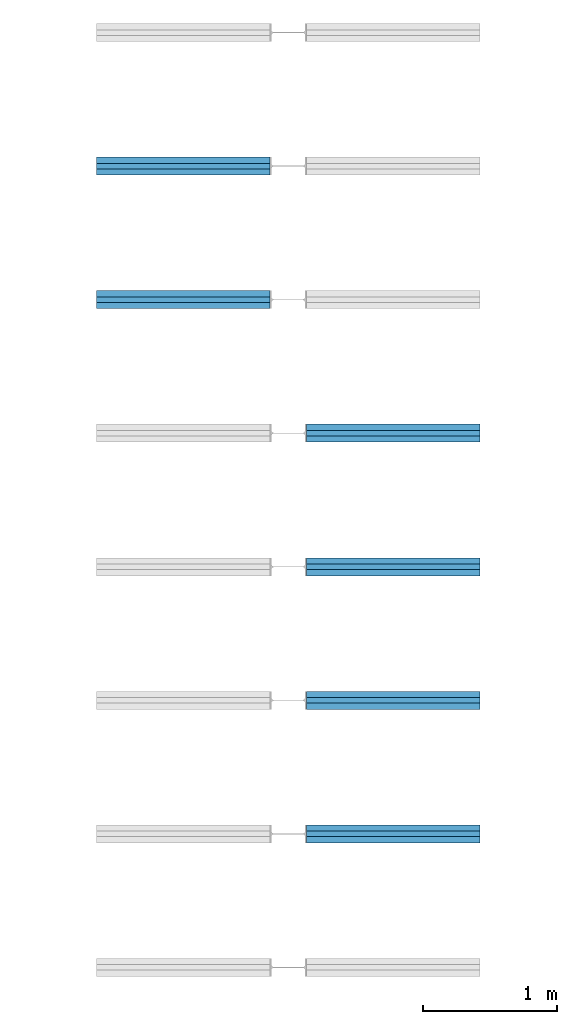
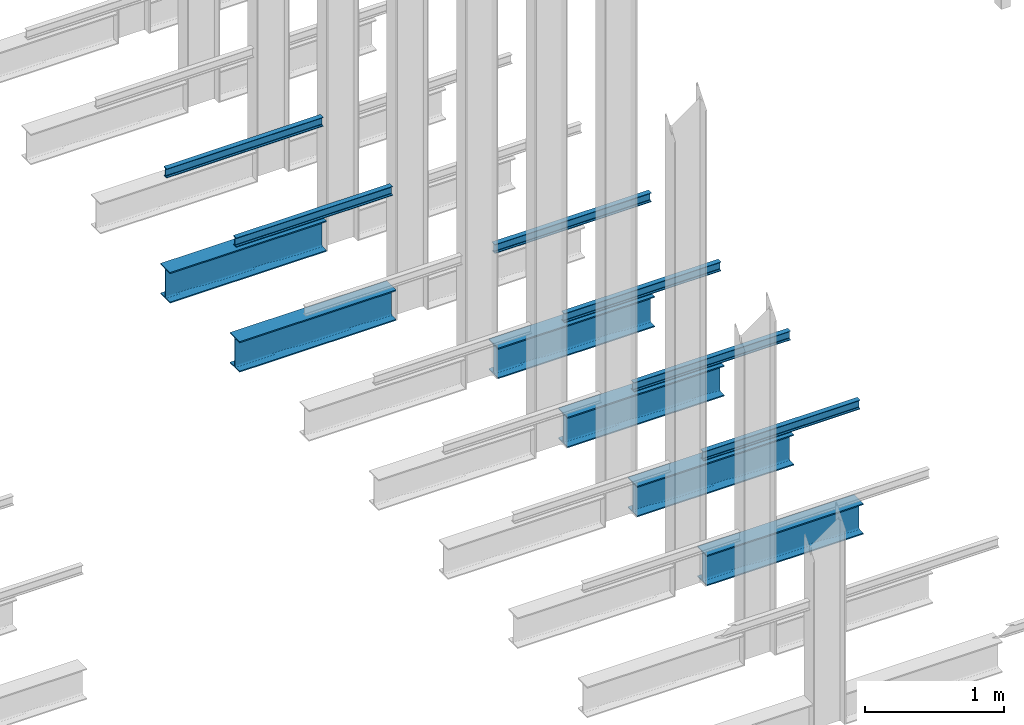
# One storey, part 175 of 302: 12 beams.
"""IFC2X3 building model written with IfcOpenShell, lengths in metres."""

from ifc_helpers import new_model, entity, si_unit, converted_unit, derived_unit, direction, frame, frame_2d, origin, place, context, subcontext, project, spatial, polyline, circle_curve, parameter, trimmed, segment, composite_curve, i_section, outline, extrude, material, type_object, element, save


model = new_model("IFC2X3")

# Units and contexts
model_context = context("Model", 3, precision=1e-05, world=origin(), true_north=direction((6.12303176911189e-17, 1.0)))
body_context = subcontext(model_context, "Body", "Model", "MODEL_VIEW")
ifc_project = project(units=[si_unit("LENGTHUNIT", "METRE"), si_unit("AREAUNIT", "SQUARE_METRE"), si_unit("VOLUMEUNIT", "CUBIC_METRE"), converted_unit("PLANEANGLEUNIT", "DEGREE", entity("IfcRatioMeasure", 0.0174532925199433), si_unit("PLANEANGLEUNIT", "RADIAN"), dimensions=[0, 0, 0, 0, 0, 0, 0]), si_unit("MASSUNIT", "GRAM", prefix="KILO"), derived_unit("MASSDENSITYUNIT", [(si_unit("MASSUNIT", "GRAM", prefix="KILO"), 1), (si_unit("LENGTHUNIT", "METRE"), -3)]), derived_unit("MOMENTOFINERTIAUNIT", [(si_unit("LENGTHUNIT", "METRE"), 4)]), si_unit("TIMEUNIT", "SECOND"), si_unit("FREQUENCYUNIT", "HERTZ"), si_unit("THERMODYNAMICTEMPERATUREUNIT", "DEGREE_CELSIUS"), derived_unit("THERMALTRANSMITTANCEUNIT", [(si_unit("MASSUNIT", "GRAM", prefix="KILO"), 1), (si_unit("THERMODYNAMICTEMPERATUREUNIT", "KELVIN"), -1), (si_unit("TIMEUNIT", "SECOND"), -3)]), derived_unit("VOLUMETRICFLOWRATEUNIT", [(si_unit("LENGTHUNIT", "METRE"), 3), (si_unit("TIMEUNIT", "SECOND"), -1)]), si_unit("ELECTRICCURRENTUNIT", "AMPERE"), si_unit("ELECTRICVOLTAGEUNIT", "VOLT"), si_unit("POWERUNIT", "WATT"), si_unit("FORCEUNIT", "NEWTON", prefix="KILO"), si_unit("ILLUMINANCEUNIT", "LUX"), si_unit("LUMINOUSFLUXUNIT", "LUMEN"), si_unit("LUMINOUSINTENSITYUNIT", "CANDELA"), derived_unit("USERDEFINED", [(si_unit("MASSUNIT", "GRAM", prefix="KILO"), -1), (si_unit("LENGTHUNIT", "METRE"), -2), (si_unit("TIMEUNIT", "SECOND"), 3), (si_unit("LUMINOUSFLUXUNIT", "LUMEN"), 1)]), derived_unit("LINEARVELOCITYUNIT", [(si_unit("LENGTHUNIT", "METRE"), 1), (si_unit("TIMEUNIT", "SECOND"), -1)]), si_unit("PRESSUREUNIT", "PASCAL"), derived_unit("USERDEFINED", [(si_unit("LENGTHUNIT", "METRE"), -2), (si_unit("MASSUNIT", "GRAM", prefix="KILO"), 1), (si_unit("TIMEUNIT", "SECOND"), -2)]), derived_unit("LINEARFORCEUNIT", [(si_unit("MASSUNIT", "GRAM", prefix="KILO"), 1), (si_unit("LENGTHUNIT", "METRE"), 1), (si_unit("TIMEUNIT", "SECOND"), -2), (si_unit("LENGTHUNIT", "METRE"), -1)]), derived_unit("PLANARFORCEUNIT", [(si_unit("MASSUNIT", "GRAM", prefix="KILO"), 1), (si_unit("LENGTHUNIT", "METRE"), 1), (si_unit("TIMEUNIT", "SECOND"), -2), (si_unit("LENGTHUNIT", "METRE"), -2)])], contexts=[model_context])

# Site, building, storey
site_placement = place(None, origin())
site = spatial("IfcSite", under=ifc_project, at=site_placement, Name="Default", CompositionType="ELEMENT")
building_placement = place(site_placement, origin())
building = spatial("IfcBuilding", under=site, at=building_placement, CompositionType="ELEMENT")
storey_placement = place(building_placement, frame((0.0, 0.0, -1.3)))
storey = spatial("IfcBuildingStorey", under=building, at=storey_placement, Name="00_EG", CompositionType="ELEMENT", Elevation=-1.3)

# Beams
ifc_material = material(Name="Metall - Baustahl S235")
beam_type_1 = type_object("IfcBeamType", Name="IPN Träger:IPN 80", PredefinedType="NOTDEFINED")
beam_1_placement = place(storey_placement, frame((-164.910111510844, 45.0365889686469, 2.42), z_axis=(0.0, 0.0, 1.0), x_axis=(-1.0, 0.0, 0.0)))
element("IfcBeam", 1, at=beam_1_placement, inside=storey, type_object=beam_type_1, material=ifc_material, Name="IPN Träger:IPN 80", ObjectType="IPN Träger:IPN 80", context=body_context, shape_type="SweptSolid", body=[
    extrude(outline(composite_curve([segment(polyline([(0.0375704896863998, -0.0210000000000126), (0.0399999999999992, -0.0210000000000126)]), True, "CONTINUOUS"), segment(polyline([(0.0399999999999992, -0.0210000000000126), (0.0399999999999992, 0.0209999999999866)]), True, "CONTINUOUS"), segment(polyline([(0.039999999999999, 0.0209999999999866), (0.037570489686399, 0.0209999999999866)]), True, "CONTINUOUS"), segment(trimmed(circle_curve(frame_2d((0.0375704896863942, 0.0186999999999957), x_axis=(0.0, 1.0)), 0.0022999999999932), [parameter(0.0)], [parameter(82.0300000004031)], True, "PARAMETER"), True, "CONTINUOUS"), segment(polyline([(0.0352927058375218, 0.0190189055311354), (0.0333732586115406, 0.00530924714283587)]), True, "CONTINUOUS"), segment(trimmed(circle_curve(frame_2d((0.0295109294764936, 0.00584999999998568), x_axis=(0.990340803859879, -0.138654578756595)), 0.00389999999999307), [parameter(277.969999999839)], [parameter(0.0)], True, "PARAMETER"), False, "CONTINUOUS"), segment(polyline([(0.0295109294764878, 0.00194999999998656), (-0.0295109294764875, 0.00194999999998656)]), True, "CONTINUOUS"), segment(trimmed(circle_curve(frame_2d((-0.0295109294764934, 0.00584999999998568), x_axis=(0.0, -1.0)), 0.00389999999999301), [parameter(277.969999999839)], [parameter(0.0)], True, "PARAMETER"), False, "CONTINUOUS"), segment(polyline([(-0.0333732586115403, 0.00530924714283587), (-0.0352927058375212, 0.0190189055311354)]), True, "CONTINUOUS"), segment(trimmed(circle_curve(frame_2d((-0.0375704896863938, 0.0186999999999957), x_axis=(0.990340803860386, 0.138654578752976)), 0.00229999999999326), [parameter(0.0)], [parameter(82.0300000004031)], True, "PARAMETER"), True, "CONTINUOUS"), segment(polyline([(-0.0375704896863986, 0.0209999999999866), (-0.0400000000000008, 0.0209999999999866)]), True, "CONTINUOUS"), segment(polyline([(-0.0400000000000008, 0.0209999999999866), (-0.0400000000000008, -0.0210000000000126)]), True, "CONTINUOUS"), segment(polyline([(-0.0400000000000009, -0.0210000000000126), (-0.037570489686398, -0.0210000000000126)]), True, "CONTINUOUS"), segment(trimmed(circle_curve(frame_2d((-0.0375704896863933, -0.0187000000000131), x_axis=(0.0, -1.0)), 0.00229999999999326), [parameter(0.0)], [parameter(82.0300000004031)], True, "PARAMETER"), True, "CONTINUOUS"), segment(polyline([(-0.0352927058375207, -0.0190189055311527), (-0.0333732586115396, -0.0053092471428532)]), True, "CONTINUOUS"), segment(trimmed(circle_curve(frame_2d((-0.0295109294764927, -0.005850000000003), x_axis=(-0.990340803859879, 0.138654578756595)), 0.00389999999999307), [parameter(277.969999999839)], [parameter(0.0)], True, "PARAMETER"), False, "CONTINUOUS"), segment(polyline([(-0.0295109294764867, -0.00195000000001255), (0.0295109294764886, -0.00195000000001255)]), True, "CONTINUOUS"), segment(trimmed(circle_curve(frame_2d((0.0295109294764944, -0.005850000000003), x_axis=(0.0, 1.0)), 0.00389999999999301), [parameter(277.969999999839)], [parameter(0.0)], True, "PARAMETER"), False, "CONTINUOUS"), segment(polyline([(0.0333732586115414, -0.0053092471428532), (0.0352927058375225, -0.0190189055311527)]), True, "CONTINUOUS"), segment(trimmed(circle_curve(frame_2d((0.0375704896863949, -0.0187000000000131), x_axis=(-0.990340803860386, -0.138654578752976)), 0.00229999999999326), [parameter(0.0)], [parameter(82.0300000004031)], True, "PARAMETER"), True, "CONTINUOUS")], self_intersect=False)), frame((0.000100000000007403, 0.0210000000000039, -0.0400000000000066), z_axis=(1.0, 0.0, 0.0), x_axis=(0.0, 0.0, -1.0)), (0.0, 0.0, 1.0), 1.29990000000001),
])
beam_2_placement = place(storey_placement, frame((-164.910111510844, 44.0365889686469, 2.42), z_axis=(0.0, 0.0, 1.0), x_axis=(-1.0, 0.0, 0.0)))
element("IfcBeam", 2, at=beam_2_placement, inside=storey, type_object=beam_type_1, material=ifc_material, Name="IPN Träger:IPN 80", ObjectType="IPN Träger:IPN 80", context=body_context, shape_type="SweptSolid", body=[
    extrude(outline(composite_curve([segment(polyline([(0.0375704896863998, -0.0209999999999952), (0.0399999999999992, -0.0209999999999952)]), True, "CONTINUOUS"), segment(polyline([(0.0399999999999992, -0.0209999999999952), (0.0399999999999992, 0.0210000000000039)]), True, "CONTINUOUS"), segment(polyline([(0.039999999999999, 0.0210000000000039), (0.037570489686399, 0.0210000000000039)]), True, "CONTINUOUS"), segment(trimmed(circle_curve(frame_2d((0.0375704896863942, 0.0187000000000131), x_axis=(0.0, 1.0)), 0.0022999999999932), [parameter(0.0)], [parameter(82.0300000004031)], True, "PARAMETER"), True, "CONTINUOUS"), segment(polyline([(0.0352927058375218, 0.0190189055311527), (0.0333732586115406, 0.0053092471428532)]), True, "CONTINUOUS"), segment(trimmed(circle_curve(frame_2d((0.0295109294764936, 0.005850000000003), x_axis=(0.990340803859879, -0.138654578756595)), 0.00389999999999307), [parameter(277.969999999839)], [parameter(0.0)], True, "PARAMETER"), False, "CONTINUOUS"), segment(polyline([(0.0295109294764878, 0.00195000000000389), (-0.0295109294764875, 0.00195000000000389)]), True, "CONTINUOUS"), segment(trimmed(circle_curve(frame_2d((-0.0295109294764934, 0.005850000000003), x_axis=(0.0, -1.0)), 0.00389999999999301), [parameter(277.969999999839)], [parameter(0.0)], True, "PARAMETER"), False, "CONTINUOUS"), segment(polyline([(-0.0333732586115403, 0.0053092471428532), (-0.0352927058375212, 0.0190189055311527)]), True, "CONTINUOUS"), segment(trimmed(circle_curve(frame_2d((-0.0375704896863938, 0.0187000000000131), x_axis=(0.990340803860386, 0.138654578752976)), 0.00229999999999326), [parameter(0.0)], [parameter(82.0300000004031)], True, "PARAMETER"), True, "CONTINUOUS"), segment(polyline([(-0.0375704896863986, 0.0210000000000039), (-0.0400000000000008, 0.0210000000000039)]), True, "CONTINUOUS"), segment(polyline([(-0.0400000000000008, 0.0210000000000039), (-0.0400000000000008, -0.0209999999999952)]), True, "CONTINUOUS"), segment(polyline([(-0.0400000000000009, -0.0209999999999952), (-0.037570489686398, -0.0209999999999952)]), True, "CONTINUOUS"), segment(trimmed(circle_curve(frame_2d((-0.0375704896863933, -0.0186999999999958), x_axis=(0.0, -1.0)), 0.00229999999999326), [parameter(0.0)], [parameter(82.0300000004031)], True, "PARAMETER"), True, "CONTINUOUS"), segment(polyline([(-0.0352927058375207, -0.0190189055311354), (-0.0333732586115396, -0.00530924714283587)]), True, "CONTINUOUS"), segment(trimmed(circle_curve(frame_2d((-0.0295109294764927, -0.00584999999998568), x_axis=(-0.990340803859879, 0.138654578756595)), 0.00389999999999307), [parameter(277.969999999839)], [parameter(0.0)], True, "PARAMETER"), False, "CONTINUOUS"), segment(polyline([(-0.0295109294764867, -0.00194999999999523), (0.0295109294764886, -0.00194999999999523)]), True, "CONTINUOUS"), segment(trimmed(circle_curve(frame_2d((0.0295109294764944, -0.00584999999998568), x_axis=(0.0, 1.0)), 0.00389999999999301), [parameter(277.969999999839)], [parameter(0.0)], True, "PARAMETER"), False, "CONTINUOUS"), segment(polyline([(0.0333732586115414, -0.00530924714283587), (0.0352927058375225, -0.0190189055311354)]), True, "CONTINUOUS"), segment(trimmed(circle_curve(frame_2d((0.0375704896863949, -0.0186999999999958), x_axis=(-0.990340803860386, -0.138654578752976)), 0.00229999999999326), [parameter(0.0)], [parameter(82.0300000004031)], True, "PARAMETER"), True, "CONTINUOUS")], self_intersect=False)), frame((0.000100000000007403, 0.0209999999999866, -0.0400000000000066), z_axis=(1.0, 0.0, 0.0), x_axis=(0.0, 0.0, -1.0)), (0.0, 0.0, 1.0), 1.29990000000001),
])
beam_3_placement = place(storey_placement, frame((-164.640111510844, 42.9945889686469, 2.42)))
element("IfcBeam", 3, at=beam_3_placement, inside=storey, type_object=beam_type_1, material=ifc_material, Name="IPN Träger:IPN 80", ObjectType="IPN Träger:IPN 80", context=body_context, shape_type="SweptSolid", body=[
    extrude(outline(composite_curve([segment(polyline([(0.0375704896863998, -0.0210000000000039), (0.0399999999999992, -0.0210000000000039)]), True, "CONTINUOUS"), segment(polyline([(0.0399999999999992, -0.0210000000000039), (0.0399999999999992, 0.0209999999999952)]), True, "CONTINUOUS"), segment(polyline([(0.039999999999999, 0.0209999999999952), (0.037570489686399, 0.0209999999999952)]), True, "CONTINUOUS"), segment(trimmed(circle_curve(frame_2d((0.0375704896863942, 0.0187000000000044), x_axis=(0.0, 1.0)), 0.0022999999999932), [parameter(0.0)], [parameter(82.0300000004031)], True, "PARAMETER"), True, "CONTINUOUS"), segment(polyline([(0.0352927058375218, 0.019018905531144), (0.0333732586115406, 0.00530924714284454)]), True, "CONTINUOUS"), segment(trimmed(circle_curve(frame_2d((0.0295109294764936, 0.00584999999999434), x_axis=(0.990340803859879, -0.138654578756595)), 0.00389999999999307), [parameter(277.969999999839)], [parameter(0.0)], True, "PARAMETER"), False, "CONTINUOUS"), segment(polyline([(0.0295109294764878, 0.00194999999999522), (-0.0295109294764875, 0.00194999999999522)]), True, "CONTINUOUS"), segment(trimmed(circle_curve(frame_2d((-0.0295109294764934, 0.00584999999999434), x_axis=(0.0, -1.0)), 0.00389999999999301), [parameter(277.969999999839)], [parameter(0.0)], True, "PARAMETER"), False, "CONTINUOUS"), segment(polyline([(-0.0333732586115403, 0.00530924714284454), (-0.0352927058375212, 0.019018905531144)]), True, "CONTINUOUS"), segment(trimmed(circle_curve(frame_2d((-0.0375704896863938, 0.0187000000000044), x_axis=(0.990340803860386, 0.138654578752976)), 0.00229999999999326), [parameter(0.0)], [parameter(82.0300000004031)], True, "PARAMETER"), True, "CONTINUOUS"), segment(polyline([(-0.0375704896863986, 0.0209999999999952), (-0.0400000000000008, 0.0209999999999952)]), True, "CONTINUOUS"), segment(polyline([(-0.0400000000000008, 0.0209999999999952), (-0.0400000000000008, -0.0210000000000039)]), True, "CONTINUOUS"), segment(polyline([(-0.0400000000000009, -0.0210000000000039), (-0.037570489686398, -0.0210000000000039)]), True, "CONTINUOUS"), segment(trimmed(circle_curve(frame_2d((-0.0375704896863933, -0.0187000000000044), x_axis=(0.0, -1.0)), 0.00229999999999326), [parameter(0.0)], [parameter(82.0300000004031)], True, "PARAMETER"), True, "CONTINUOUS"), segment(polyline([(-0.0352927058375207, -0.019018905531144), (-0.0333732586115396, -0.00530924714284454)]), True, "CONTINUOUS"), segment(trimmed(circle_curve(frame_2d((-0.0295109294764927, -0.00584999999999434), x_axis=(-0.990340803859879, 0.138654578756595)), 0.00389999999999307), [parameter(277.969999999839)], [parameter(0.0)], True, "PARAMETER"), False, "CONTINUOUS"), segment(polyline([(-0.0295109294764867, -0.00195000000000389), (0.0295109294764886, -0.00195000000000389)]), True, "CONTINUOUS"), segment(trimmed(circle_curve(frame_2d((0.0295109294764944, -0.00584999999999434), x_axis=(0.0, 1.0)), 0.00389999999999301), [parameter(277.969999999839)], [parameter(0.0)], True, "PARAMETER"), False, "CONTINUOUS"), segment(polyline([(0.0333732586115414, -0.00530924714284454), (0.0352927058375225, -0.019018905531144)]), True, "CONTINUOUS"), segment(trimmed(circle_curve(frame_2d((0.0375704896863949, -0.0187000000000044), x_axis=(-0.990340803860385, -0.138654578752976)), 0.00229999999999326), [parameter(0.0)], [parameter(82.0300000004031)], True, "PARAMETER"), True, "CONTINUOUS")], self_intersect=False)), frame((9.99999999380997e-05, 0.0209999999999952, -0.0400000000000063), z_axis=(1.0, 0.0, 0.0), x_axis=(0.0, 0.0, -1.0)), (0.0, 0.0, 1.0), 1.29990000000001),
])
beam_4_placement = place(storey_placement, frame((-164.640111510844, 41.9945889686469, 2.42)))
element("IfcBeam", 4, at=beam_4_placement, inside=storey, type_object=beam_type_1, material=ifc_material, Name="IPN Träger:IPN 80", ObjectType="IPN Träger:IPN 80", context=body_context, shape_type="SweptSolid", body=[
    extrude(outline(composite_curve([segment(polyline([(0.0375704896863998, -0.0210000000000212), (0.0399999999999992, -0.0210000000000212)]), True, "CONTINUOUS"), segment(polyline([(0.0399999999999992, -0.0210000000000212), (0.0399999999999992, 0.0209999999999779)]), True, "CONTINUOUS"), segment(polyline([(0.039999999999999, 0.0209999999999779), (0.037570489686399, 0.0209999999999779)]), True, "CONTINUOUS"), segment(trimmed(circle_curve(frame_2d((0.0375704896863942, 0.0186999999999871), x_axis=(0.0, 1.0)), 0.0022999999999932), [parameter(0.0)], [parameter(82.0300000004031)], True, "PARAMETER"), True, "CONTINUOUS"), segment(polyline([(0.0352927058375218, 0.0190189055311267), (0.0333732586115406, 0.00530924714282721)]), True, "CONTINUOUS"), segment(trimmed(circle_curve(frame_2d((0.0295109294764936, 0.00584999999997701), x_axis=(0.990340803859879, -0.138654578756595)), 0.00389999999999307), [parameter(277.969999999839)], [parameter(0.0)], True, "PARAMETER"), False, "CONTINUOUS"), segment(polyline([(0.0295109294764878, 0.0019499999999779), (-0.0295109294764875, 0.0019499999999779)]), True, "CONTINUOUS"), segment(trimmed(circle_curve(frame_2d((-0.0295109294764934, 0.00584999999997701), x_axis=(0.0, -1.0)), 0.00389999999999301), [parameter(277.969999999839)], [parameter(0.0)], True, "PARAMETER"), False, "CONTINUOUS"), segment(polyline([(-0.0333732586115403, 0.00530924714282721), (-0.0352927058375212, 0.0190189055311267)]), True, "CONTINUOUS"), segment(trimmed(circle_curve(frame_2d((-0.0375704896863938, 0.0186999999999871), x_axis=(0.990340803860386, 0.138654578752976)), 0.00229999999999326), [parameter(0.0)], [parameter(82.0300000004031)], True, "PARAMETER"), True, "CONTINUOUS"), segment(polyline([(-0.0375704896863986, 0.0209999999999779), (-0.0400000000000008, 0.0209999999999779)]), True, "CONTINUOUS"), segment(polyline([(-0.0400000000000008, 0.0209999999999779), (-0.0400000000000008, -0.0210000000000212)]), True, "CONTINUOUS"), segment(polyline([(-0.0400000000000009, -0.0210000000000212), (-0.037570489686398, -0.0210000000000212)]), True, "CONTINUOUS"), segment(trimmed(circle_curve(frame_2d((-0.0375704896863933, -0.0187000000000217), x_axis=(0.0, -1.0)), 0.00229999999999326), [parameter(0.0)], [parameter(82.0300000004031)], True, "PARAMETER"), True, "CONTINUOUS"), segment(polyline([(-0.0352927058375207, -0.0190189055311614), (-0.0333732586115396, -0.00530924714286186)]), True, "CONTINUOUS"), segment(trimmed(circle_curve(frame_2d((-0.0295109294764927, -0.00585000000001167), x_axis=(-0.990340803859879, 0.138654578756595)), 0.00389999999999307), [parameter(277.969999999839)], [parameter(0.0)], True, "PARAMETER"), False, "CONTINUOUS"), segment(polyline([(-0.0295109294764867, -0.00195000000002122), (0.0295109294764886, -0.00195000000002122)]), True, "CONTINUOUS"), segment(trimmed(circle_curve(frame_2d((0.0295109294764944, -0.00585000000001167), x_axis=(0.0, 1.0)), 0.00389999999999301), [parameter(277.969999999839)], [parameter(0.0)], True, "PARAMETER"), False, "CONTINUOUS"), segment(polyline([(0.0333732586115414, -0.00530924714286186), (0.0352927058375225, -0.0190189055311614)]), True, "CONTINUOUS"), segment(trimmed(circle_curve(frame_2d((0.0375704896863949, -0.0187000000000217), x_axis=(-0.990340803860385, -0.138654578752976)), 0.00229999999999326), [parameter(0.0)], [parameter(82.0300000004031)], True, "PARAMETER"), True, "CONTINUOUS")], self_intersect=False)), frame((9.99999999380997e-05, 0.0210000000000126, -0.0400000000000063), z_axis=(1.0, 0.0, 0.0), x_axis=(0.0, 0.0, -1.0)), (0.0, 0.0, 1.0), 1.29990000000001),
])
beam_5_placement = place(storey_placement, frame((-164.640111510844, 40.9945889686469, 2.42)))
element("IfcBeam", 5, at=beam_5_placement, inside=storey, type_object=beam_type_1, material=ifc_material, Name="IPN Träger:IPN 80", ObjectType="IPN Träger:IPN 80", context=body_context, shape_type="SweptSolid", body=[
    extrude(outline(composite_curve([segment(polyline([(0.0375704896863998, -0.0209999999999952), (0.0399999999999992, -0.0209999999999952)]), True, "CONTINUOUS"), segment(polyline([(0.0399999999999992, -0.0209999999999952), (0.0399999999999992, 0.0210000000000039)]), True, "CONTINUOUS"), segment(polyline([(0.039999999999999, 0.0210000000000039), (0.037570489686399, 0.0210000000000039)]), True, "CONTINUOUS"), segment(trimmed(circle_curve(frame_2d((0.0375704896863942, 0.0187000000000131), x_axis=(0.0, 1.0)), 0.0022999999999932), [parameter(0.0)], [parameter(82.0300000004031)], True, "PARAMETER"), True, "CONTINUOUS"), segment(polyline([(0.0352927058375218, 0.0190189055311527), (0.0333732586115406, 0.0053092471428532)]), True, "CONTINUOUS"), segment(trimmed(circle_curve(frame_2d((0.0295109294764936, 0.005850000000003), x_axis=(0.990340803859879, -0.138654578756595)), 0.00389999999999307), [parameter(277.969999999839)], [parameter(0.0)], True, "PARAMETER"), False, "CONTINUOUS"), segment(polyline([(0.0295109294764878, 0.00195000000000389), (-0.0295109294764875, 0.00195000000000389)]), True, "CONTINUOUS"), segment(trimmed(circle_curve(frame_2d((-0.0295109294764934, 0.005850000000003), x_axis=(0.0, -1.0)), 0.00389999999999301), [parameter(277.969999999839)], [parameter(0.0)], True, "PARAMETER"), False, "CONTINUOUS"), segment(polyline([(-0.0333732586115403, 0.0053092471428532), (-0.0352927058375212, 0.0190189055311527)]), True, "CONTINUOUS"), segment(trimmed(circle_curve(frame_2d((-0.0375704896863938, 0.0187000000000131), x_axis=(0.990340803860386, 0.138654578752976)), 0.00229999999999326), [parameter(0.0)], [parameter(82.0300000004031)], True, "PARAMETER"), True, "CONTINUOUS"), segment(polyline([(-0.0375704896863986, 0.0210000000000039), (-0.0400000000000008, 0.0210000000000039)]), True, "CONTINUOUS"), segment(polyline([(-0.0400000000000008, 0.0210000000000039), (-0.0400000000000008, -0.0209999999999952)]), True, "CONTINUOUS"), segment(polyline([(-0.0400000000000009, -0.0209999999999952), (-0.037570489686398, -0.0209999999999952)]), True, "CONTINUOUS"), segment(trimmed(circle_curve(frame_2d((-0.0375704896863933, -0.0186999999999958), x_axis=(0.0, -1.0)), 0.00229999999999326), [parameter(0.0)], [parameter(82.0300000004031)], True, "PARAMETER"), True, "CONTINUOUS"), segment(polyline([(-0.0352927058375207, -0.0190189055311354), (-0.0333732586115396, -0.00530924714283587)]), True, "CONTINUOUS"), segment(trimmed(circle_curve(frame_2d((-0.0295109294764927, -0.00584999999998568), x_axis=(-0.990340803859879, 0.138654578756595)), 0.00389999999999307), [parameter(277.969999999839)], [parameter(0.0)], True, "PARAMETER"), False, "CONTINUOUS"), segment(polyline([(-0.0295109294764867, -0.00194999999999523), (0.0295109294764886, -0.00194999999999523)]), True, "CONTINUOUS"), segment(trimmed(circle_curve(frame_2d((0.0295109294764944, -0.00584999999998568), x_axis=(0.0, 1.0)), 0.00389999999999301), [parameter(277.969999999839)], [parameter(0.0)], True, "PARAMETER"), False, "CONTINUOUS"), segment(polyline([(0.0333732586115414, -0.00530924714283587), (0.0352927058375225, -0.0190189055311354)]), True, "CONTINUOUS"), segment(trimmed(circle_curve(frame_2d((0.0375704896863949, -0.0186999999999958), x_axis=(-0.990340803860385, -0.138654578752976)), 0.00229999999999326), [parameter(0.0)], [parameter(82.0300000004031)], True, "PARAMETER"), True, "CONTINUOUS")], self_intersect=False)), frame((9.99999999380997e-05, 0.0209999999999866, -0.0400000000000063), z_axis=(1.0, 0.0, 0.0), x_axis=(0.0, 0.0, -1.0)), (0.0, 0.0, 1.0), 1.29990000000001),
])
beam_6_placement = place(storey_placement, frame((-164.640111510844, 39.9945889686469, 2.42)))
element("IfcBeam", 6, at=beam_6_placement, inside=storey, type_object=beam_type_1, material=ifc_material, Name="IPN Träger:IPN 80", ObjectType="IPN Träger:IPN 80", context=body_context, shape_type="SweptSolid", body=[
    extrude(outline(composite_curve([segment(polyline([(0.0375704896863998, -0.0209999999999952), (0.0399999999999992, -0.0209999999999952)]), True, "CONTINUOUS"), segment(polyline([(0.0399999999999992, -0.0209999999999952), (0.0399999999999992, 0.0210000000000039)]), True, "CONTINUOUS"), segment(polyline([(0.039999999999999, 0.0210000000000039), (0.037570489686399, 0.0210000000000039)]), True, "CONTINUOUS"), segment(trimmed(circle_curve(frame_2d((0.0375704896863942, 0.0187000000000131), x_axis=(0.0, 1.0)), 0.0022999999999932), [parameter(0.0)], [parameter(82.0300000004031)], True, "PARAMETER"), True, "CONTINUOUS"), segment(polyline([(0.0352927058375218, 0.0190189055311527), (0.0333732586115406, 0.0053092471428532)]), True, "CONTINUOUS"), segment(trimmed(circle_curve(frame_2d((0.0295109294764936, 0.005850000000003), x_axis=(0.990340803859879, -0.138654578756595)), 0.00389999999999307), [parameter(277.969999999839)], [parameter(0.0)], True, "PARAMETER"), False, "CONTINUOUS"), segment(polyline([(0.0295109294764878, 0.00195000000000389), (-0.0295109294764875, 0.00195000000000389)]), True, "CONTINUOUS"), segment(trimmed(circle_curve(frame_2d((-0.0295109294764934, 0.005850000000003), x_axis=(0.0, -1.0)), 0.00389999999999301), [parameter(277.969999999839)], [parameter(0.0)], True, "PARAMETER"), False, "CONTINUOUS"), segment(polyline([(-0.0333732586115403, 0.0053092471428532), (-0.0352927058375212, 0.0190189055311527)]), True, "CONTINUOUS"), segment(trimmed(circle_curve(frame_2d((-0.0375704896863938, 0.0187000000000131), x_axis=(0.990340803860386, 0.138654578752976)), 0.00229999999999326), [parameter(0.0)], [parameter(82.0300000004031)], True, "PARAMETER"), True, "CONTINUOUS"), segment(polyline([(-0.0375704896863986, 0.0210000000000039), (-0.0400000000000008, 0.0210000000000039)]), True, "CONTINUOUS"), segment(polyline([(-0.0400000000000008, 0.0210000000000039), (-0.0400000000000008, -0.0209999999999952)]), True, "CONTINUOUS"), segment(polyline([(-0.0400000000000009, -0.0209999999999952), (-0.037570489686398, -0.0209999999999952)]), True, "CONTINUOUS"), segment(trimmed(circle_curve(frame_2d((-0.0375704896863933, -0.0186999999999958), x_axis=(0.0, -1.0)), 0.00229999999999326), [parameter(0.0)], [parameter(82.0300000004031)], True, "PARAMETER"), True, "CONTINUOUS"), segment(polyline([(-0.0352927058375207, -0.0190189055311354), (-0.0333732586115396, -0.00530924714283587)]), True, "CONTINUOUS"), segment(trimmed(circle_curve(frame_2d((-0.0295109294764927, -0.00584999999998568), x_axis=(-0.990340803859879, 0.138654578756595)), 0.00389999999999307), [parameter(277.969999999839)], [parameter(0.0)], True, "PARAMETER"), False, "CONTINUOUS"), segment(polyline([(-0.0295109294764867, -0.00194999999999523), (0.0295109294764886, -0.00194999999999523)]), True, "CONTINUOUS"), segment(trimmed(circle_curve(frame_2d((0.0295109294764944, -0.00584999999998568), x_axis=(0.0, 1.0)), 0.00389999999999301), [parameter(277.969999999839)], [parameter(0.0)], True, "PARAMETER"), False, "CONTINUOUS"), segment(polyline([(0.0333732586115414, -0.00530924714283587), (0.0352927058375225, -0.0190189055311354)]), True, "CONTINUOUS"), segment(trimmed(circle_curve(frame_2d((0.0375704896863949, -0.0186999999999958), x_axis=(-0.990340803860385, -0.138654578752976)), 0.00229999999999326), [parameter(0.0)], [parameter(82.0300000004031)], True, "PARAMETER"), True, "CONTINUOUS")], self_intersect=False)), frame((9.99999999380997e-05, 0.0209999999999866, -0.0400000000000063), z_axis=(1.0, 0.0, 0.0), x_axis=(0.0, 0.0, -1.0)), (0.0, 0.0, 1.0), 1.29990000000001),
])
beam_type_2 = type_object("IfcBeamType", Name="IPE Träger:IPE 270", PredefinedType="NOTDEFINED")
beam_7_placement = place(storey_placement, frame((-164.640111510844, 40.083088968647, 1.54000000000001)))
element("IfcBeam", 7, at=beam_7_placement, inside=storey, type_object=beam_type_2, material=ifc_material, Name="IPE Träger:IPE 270", ObjectType="IPE Träger:IPE 270", context=body_context, shape_type="SweptSolid", body=[
    extrude(i_section(OverallWidth=0.134999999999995, OverallDepth=0.27, WebThickness=0.0065999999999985, FlangeThickness=0.0102000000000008, FilletRadius=0.0149999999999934, at=frame_2d((5.96744875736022e-16, 8.66667848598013e-15), x_axis=(0.0, 1.0))), frame((9.99999999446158e-05, -0.0675000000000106, -0.135000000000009), z_axis=(1.0, 0.0, 0.0), x_axis=(0.0, 0.0, -1.0)), (0.0, 0.0, 1.0), 1.29990000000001),
])
beam_8_placement = place(storey_placement, frame((-164.640111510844, 41.0830889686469, 1.54000000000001)))
element("IfcBeam", 8, at=beam_8_placement, inside=storey, type_object=beam_type_2, material=ifc_material, Name="IPE Träger:IPE 270", ObjectType="IPE Träger:IPE 270", context=body_context, shape_type="SweptSolid", body=[
    extrude(i_section(OverallWidth=0.134999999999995, OverallDepth=0.27, WebThickness=0.0065999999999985, FlangeThickness=0.0102000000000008, FilletRadius=0.0149999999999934, at=frame_2d((5.96744875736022e-16, 0.0), x_axis=(0.0, 1.0))), frame((9.99999999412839e-05, -0.067500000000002, -0.135000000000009), z_axis=(1.0, 0.0, 0.0), x_axis=(0.0, 0.0, -1.0)), (0.0, 0.0, 1.0), 1.29990000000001),
])
beam_9_placement = place(storey_placement, frame((-164.640111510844, 42.0830889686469, 1.54000000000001)))
element("IfcBeam", 9, at=beam_9_placement, inside=storey, type_object=beam_type_2, material=ifc_material, Name="IPE Träger:IPE 270", ObjectType="IPE Träger:IPE 270", context=body_context, shape_type="SweptSolid", body=[
    extrude(i_section(OverallWidth=0.134999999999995, OverallDepth=0.27, WebThickness=0.0065999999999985, FlangeThickness=0.0102000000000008, FilletRadius=0.0149999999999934, at=frame_2d((5.96744875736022e-16, -1.73264180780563e-14), x_axis=(0.0, 1.0))), frame((9.9999999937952e-05, -0.0674999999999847, -0.135000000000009), z_axis=(1.0, 0.0, 0.0), x_axis=(0.0, 0.0, -1.0)), (0.0, 0.0, 1.0), 1.29990000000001),
])
beam_10_placement = place(storey_placement, frame((-164.640111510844, 43.0830889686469, 1.54000000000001)))
element("IfcBeam", 10, at=beam_10_placement, inside=storey, type_object=beam_type_2, material=ifc_material, Name="IPE Träger:IPE 270", ObjectType="IPE Träger:IPE 270", context=body_context, shape_type="SweptSolid", body=[
    extrude(i_section(OverallWidth=0.134999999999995, OverallDepth=0.27, WebThickness=0.0065999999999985, FlangeThickness=0.0102000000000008, FilletRadius=0.0149999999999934, at=frame_2d((5.96744875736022e-16, 0.0), x_axis=(0.0, 1.0))), frame((9.99999999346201e-05, -0.067500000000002, -0.135000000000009), z_axis=(1.0, 0.0, 0.0), x_axis=(0.0, 0.0, -1.0)), (0.0, 0.0, 1.0), 1.29990000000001),
])
beam_11_placement = place(storey_placement, frame((-164.910111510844, 44.0830889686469, 1.54000000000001), z_axis=(0.0, 0.0, 1.0), x_axis=(-1.0, 0.0, 0.0)))
element("IfcBeam", 11, at=beam_11_placement, inside=storey, type_object=beam_type_2, material=ifc_material, Name="IPE Träger:IPE 270", ObjectType="IPE Träger:IPE 270", context=body_context, shape_type="SweptSolid", body=[
    extrude(i_section(OverallWidth=0.134999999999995, OverallDepth=0.27, WebThickness=0.0065999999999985, FlangeThickness=0.0102000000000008, FilletRadius=0.0149999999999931, at=frame_2d((5.96744875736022e-16, 0.0), x_axis=(0.0, 1.0))), frame((0.000100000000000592, 0.067500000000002, -0.135000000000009), z_axis=(1.0, 0.0, 0.0), x_axis=(0.0, 0.0, -1.0)), (0.0, 0.0, 1.0), 1.29990000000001),
])
beam_12_placement = place(storey_placement, frame((-164.910111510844, 45.0830889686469, 1.54000000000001), z_axis=(0.0, 0.0, 1.0), x_axis=(-1.0, 0.0, 0.0)))
element("IfcBeam", 12, at=beam_12_placement, inside=storey, type_object=beam_type_2, material=ifc_material, Name="IPE Träger:IPE 270", ObjectType="IPE Träger:IPE 270", context=body_context, shape_type="SweptSolid", body=[
    extrude(i_section(OverallWidth=0.134999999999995, OverallDepth=0.27, WebThickness=0.0065999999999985, FlangeThickness=0.0102000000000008, FilletRadius=0.0149999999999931, at=frame_2d((5.96744875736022e-16, -8.66667848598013e-15), x_axis=(0.0, 1.0))), frame((9.99999999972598e-05, 0.0675000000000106, -0.135000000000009), z_axis=(1.0, 0.0, 0.0), x_axis=(0.0, 0.0, -1.0)), (0.0, 0.0, 1.0), 1.29990000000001),
])

save(model, "model.ifc")
